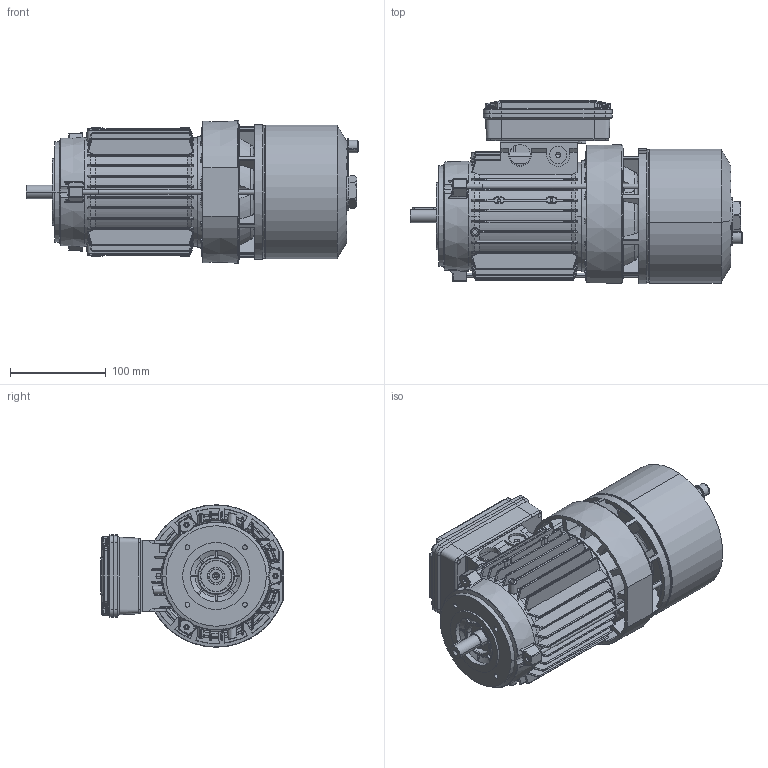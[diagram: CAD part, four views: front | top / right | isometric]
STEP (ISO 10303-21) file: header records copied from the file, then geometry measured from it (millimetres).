
FILE_DESCRIPTION (( 'STEP AP214' ), '1' );
FILE_NAME ('BA 71 B14 - DM.STEP', '2018-07-26T15:40:30', ( '' ), ( '' ), 'SwSTEP 2.0', 'SolidWorks 2018', '' );
FILE_SCHEMA (( 'AUTOMOTIVE_DESIGN' ));
Length unit declared in the file: millimetre
Products named in the file (16): Scudo Lato Freno BA 71 P1 - DBAE0094; Chiavetta 71; Albero BA 71; Carcassa 71 B5; BA 71 B14 - DM; Anello per Gruppo Freno 71 - DBAU0294; Tirante BA 71 - DBA60094; Scatola per Morsettiera Doppia 63-71-80 - Completa; Guarnizione Scatola Singola 63-71-80; Vite per coperchio morsettiera; Coperchio per Scatola per Morsettiera Doppia 63-71-80; Scatola per Morsettiera Doppia 63-71-80; Scudo a Flangia B14 BA-BM 71 - DBAC0194; Vite a Testa Esagona con foro e tappo 71-112 - Modificata; Cuffia serie BA 71; Convogliatore con pista di attrito P2 BA 71 - DBAF0195
Assembly tree (20 placements, depth 3):
  BA 71 B14 - DM
    Carcassa 71 B5
    Albero BA 71
    Chiavetta 71
    Scudo Lato Freno BA 71 P1 - DBAE0094
    Convogliatore con pista di attrito P2 BA 71 - DBAF0195
    Cuffia serie BA 71
    Vite a Testa Esagona con foro e tappo 71-112 - Modificata
    Scudo a Flangia B14 BA-BM 71 - DBAC0194
    Scatola per Morsettiera Doppia 63-71-80 - Completa
      Scatola per Morsettiera Doppia 63-71-80
      Coperchio per Scatola per Morsettiera Doppia 63-71-80
      Vite per coperchio morsettiera  x4
      Guarnizione Scatola Singola 63-71-80
    Tirante BA 71 - DBA60094  x3
    Anello per Gruppo Freno 71 - DBAU0294
Bounding box: 347.18 x 191.5 x 149 mm (x, y, z)
Volume: 935414.8 mm3; surface area: 615016.8 mm2
Topology: 22 solids, 22 shells, 2893 faces, 7735 edges, 4774 vertices
Faces by surface type: cylinder 849, plane 843, torus 436, bspline 415, cone 342, sphere 8
Entity records: 99716 total; most frequent: CARTESIAN_POINT 35832, ORIENTED_EDGE 14118, DIRECTION 11959, EDGE_CURVE 7059, AXIS2_PLACEMENT_3D 4772, VERTEX_POINT 4460, EDGE_LOOP 2845, FACE_OUTER_BOUND 2659
